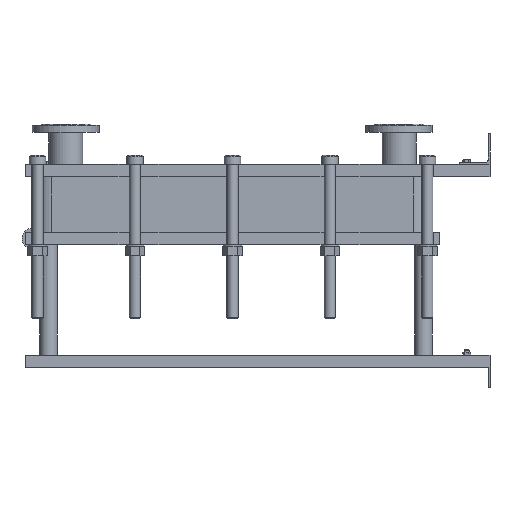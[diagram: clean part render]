
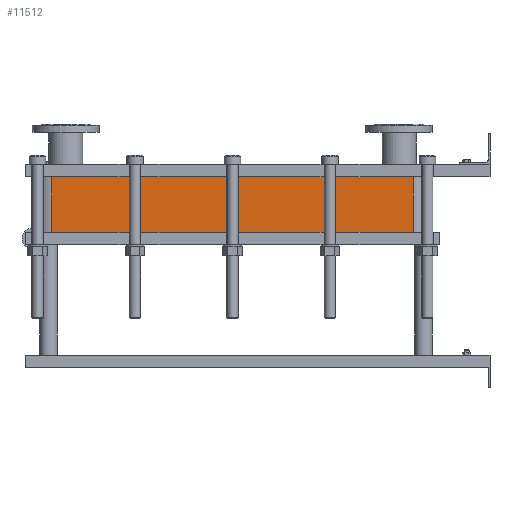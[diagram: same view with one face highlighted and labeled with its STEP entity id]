
A CAD part, left-side view. The second image highlights one B-rep face of the part: STEP entity #11512.
In plain terms, the highlighted planar face has unit normal (-1, 0, 0).
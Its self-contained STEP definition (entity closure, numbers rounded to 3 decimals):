
#1129=LINE('',#23232,#2102);
#1130=LINE('',#23236,#2103);
#1131=LINE('',#23238,#2104);
#1132=LINE('',#23239,#2105);
#2102=VECTOR('',#15887,10.);
#2103=VECTOR('',#15892,10.);
#2104=VECTOR('',#15893,10.);
#2105=VECTOR('',#15894,10.);
#3267=FACE_OUTER_BOUND('',#4093,.T.);
#4093=EDGE_LOOP('',(#10103,#10104,#10105,#10106));
#5642=VERTEX_POINT('',#23229);
#5643=VERTEX_POINT('',#23231);
#5644=VERTEX_POINT('',#23235);
#5645=VERTEX_POINT('',#23237);
#7159=EDGE_CURVE('',#5643,#5642,#1129,.T.);
#7161=EDGE_CURVE('',#5642,#5644,#1130,.T.);
#7162=EDGE_CURVE('',#5645,#5644,#1131,.T.);
#7163=EDGE_CURVE('',#5645,#5643,#1132,.T.);
#10103=ORIENTED_EDGE('',*,*,#7161,.T.);
#10104=ORIENTED_EDGE('',*,*,#7162,.F.);
#10105=ORIENTED_EDGE('',*,*,#7163,.T.);
#10106=ORIENTED_EDGE('',*,*,#7159,.T.);
#10857=PLANE('',#12751);
#11512=ADVANCED_FACE('',(#3267),#10857,.T.);
#12751=AXIS2_PLACEMENT_3D('',#23234,#15890,#15891);
#15887=DIRECTION('',(0.,0.,-1.));
#15890=DIRECTION('center_axis',(-1.,0.,0.));
#15891=DIRECTION('ref_axis',(0.,1.,0.));
#15892=DIRECTION('',(0.,-1.,0.));
#15893=DIRECTION('',(0.,0.,-1.));
#15894=DIRECTION('',(0.,1.,0.));
#23229=CARTESIAN_POINT('',(-200.,1414.,-179.4));
#23231=CARTESIAN_POINT('',(-200.,1414.,0.));
#23232=CARTESIAN_POINT('',(-200.,1414.,0.));
#23234=CARTESIAN_POINT('Origin',(-200.,248.,0.));
#23235=CARTESIAN_POINT('',(-200.,248.,-179.4));
#23236=CARTESIAN_POINT('',(-200.,539.5,-179.4));
#23237=CARTESIAN_POINT('',(-200.,248.,0.));
#23238=CARTESIAN_POINT('',(-200.,248.,0.));
#23239=CARTESIAN_POINT('',(-200.,248.,0.));
